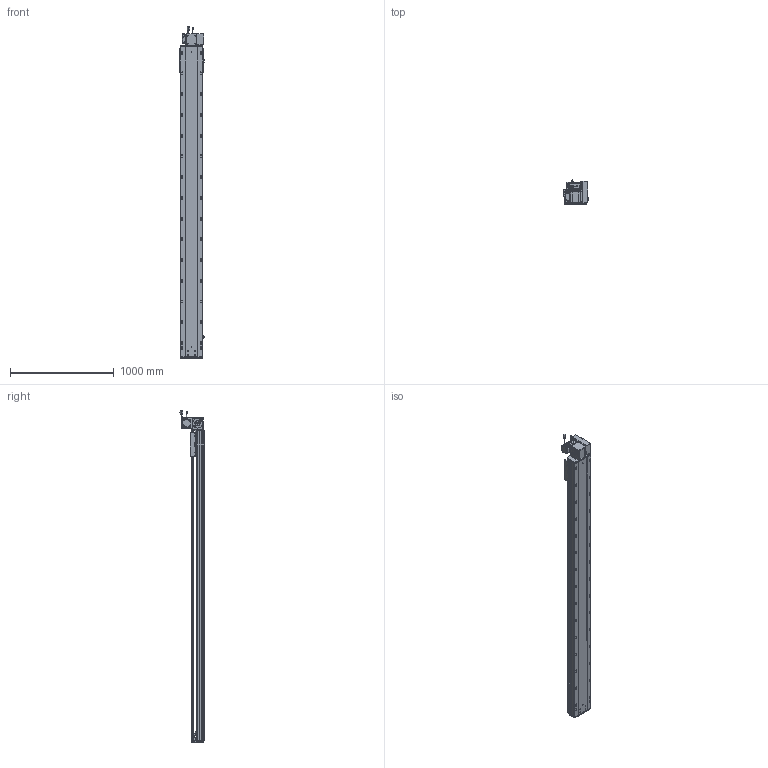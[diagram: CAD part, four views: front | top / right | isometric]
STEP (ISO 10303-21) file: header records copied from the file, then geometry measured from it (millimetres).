
FILE_DESCRIPTION (( 'STEP AP203' ), '1' );
FILE_NAME ('RY220-T-300-UR.SLDASM_2650.step', '2022-07-25T08:45:38', ( '' ), ( '' ), 'SwSTEP 2.0', 'SolidWorks 2016', '' );
FILE_SCHEMA (( 'CONFIG_CONTROL_DESIGN' ));
Length unit declared in the file: millimetre
Products named in the file (14): 110A-T-肮祭謫釱傷裔; RY220-T菁釱-300_2650; RY220-同步轮副支撑座6304×2; RY220-T-300-奻裔啣_2650; 滅袉蝶18-15; 怢湛750W_ECMA-CX0807ES; RY220-T-蛌殏萇儂假蚾啣(750W); RY220翋肮祭謫釱; RY220-T-300-UR.SLDASM_2650; 覜茼ん672; RY220圉猾敕々湍臏賑輸; RY220-T-湍謫欶(鍼踢); RY220-俋离672覜茼んえ; RY220翋肮祭謫裔啣
Assembly tree (18 placements, depth 2):
  RY220-T-300-UR.SLDASM_2650
    RY220-T菁釱-300_2650
    RY220翋肮祭謫釱
    覜茼ん672  x3
    RY220圉猾敕々湍臏賑輸
    RY220-T-300-奻裔啣_2650
    RY220-俋离672覜茼んえ
    滅袉蝶18-15  x3
    RY220翋肮祭謫裔啣  x2
    110A-T-肮祭謫釱傷裔
    怢湛750W_ECMA-CX0807ES
    RY220-T-湍謫欶(鍼踢)
    RY220-T-蛌殏萇儂假蚾啣(750W)
    RY220-同步轮副支撑座6304×2
Bounding box: 238.7 x 231.74 x 3203.27 mm (x, y, z)
Volume: 22935022 mm3; surface area: 7061460.5 mm2
Topology: 19 solids, 19 shells, 2966 faces, 8207 edges, 5148 vertices
Faces by surface type: cylinder 1458, plane 1069, cone 357, bspline 56, sphere 16, torus 10
Entity records: 98995 total; most frequent: CARTESIAN_POINT 27985, ORIENTED_EDGE 14682, DIRECTION 14144, EDGE_CURVE 7341, AXIS2_PLACEMENT_3D 5096, VERTEX_POINT 4772, LINE 3952, VECTOR 3952
